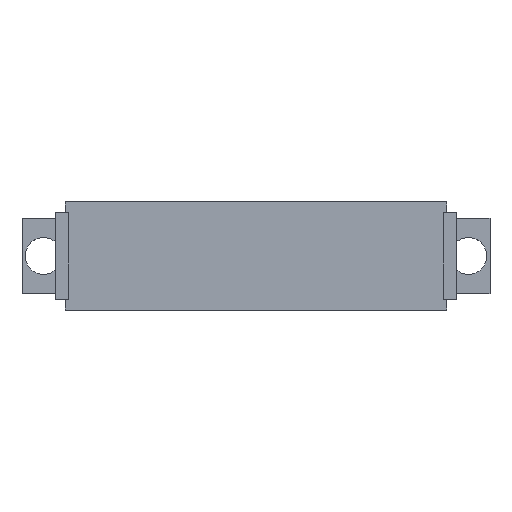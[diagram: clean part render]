
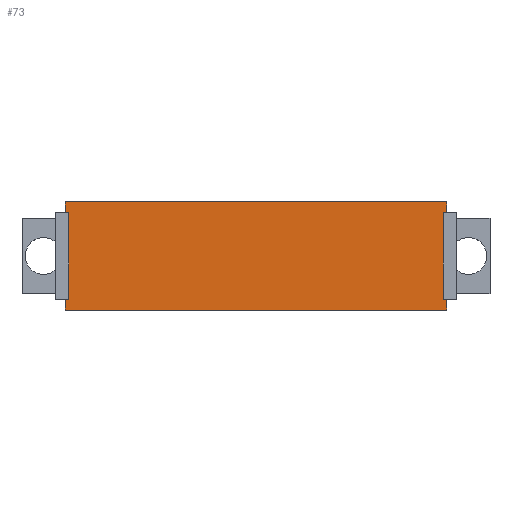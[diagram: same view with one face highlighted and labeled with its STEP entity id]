
A CAD part, top view. The second image highlights one B-rep face of the part: STEP entity #73.
In plain terms, the highlighted planar face has unit normal (0, 0, 1).
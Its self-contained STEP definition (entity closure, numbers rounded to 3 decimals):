
#21 = EDGE_CURVE('',#22,#24,#26,.T.);
#22 = VERTEX_POINT('',#23);
#23 = CARTESIAN_POINT('',(-56.3,-5.,93.75));
#24 = VERTEX_POINT('',#25);
#25 = CARTESIAN_POINT('',(-56.3,-4.,93.75));
#26 = LINE('',#27,#28);
#27 = CARTESIAN_POINT('',(-56.3,-5.,93.75));
#28 = VECTOR('',#29,1.);
#29 = DIRECTION('',(0.,1.,0.));
#73 = ADVANCED_FACE('',(#74),#163,.T.);
#74 = FACE_BOUND('',#75,.T.);
#75 = EDGE_LOOP('',(#76,#77,#85,#93,#101,#109,#117,#125,#133,#141,#149,
    #157));
#76 = ORIENTED_EDGE('',*,*,#21,.F.);
#77 = ORIENTED_EDGE('',*,*,#78,.T.);
#78 = EDGE_CURVE('',#22,#79,#81,.T.);
#79 = VERTEX_POINT('',#80);
#80 = CARTESIAN_POINT('',(-21.1,-5.,93.75));
#81 = LINE('',#82,#83);
#82 = CARTESIAN_POINT('',(-56.3,-5.,93.75));
#83 = VECTOR('',#84,1.);
#84 = DIRECTION('',(1.,0.,0.));
#85 = ORIENTED_EDGE('',*,*,#86,.T.);
#86 = EDGE_CURVE('',#79,#87,#89,.T.);
#87 = VERTEX_POINT('',#88);
#88 = CARTESIAN_POINT('',(-21.1,-4.,93.75));
#89 = LINE('',#90,#91);
#90 = CARTESIAN_POINT('',(-21.1,-5.,93.75));
#91 = VECTOR('',#92,1.);
#92 = DIRECTION('',(0.,1.,0.));
#93 = ORIENTED_EDGE('',*,*,#94,.T.);
#94 = EDGE_CURVE('',#87,#95,#97,.T.);
#95 = VERTEX_POINT('',#96);
#96 = CARTESIAN_POINT('',(-21.4,-4.,93.75));
#97 = LINE('',#98,#99);
#98 = CARTESIAN_POINT('',(-38.85,-4.,93.75));
#99 = VECTOR('',#100,1.);
#100 = DIRECTION('',(-1.,0.,0.));
#101 = ORIENTED_EDGE('',*,*,#102,.T.);
#102 = EDGE_CURVE('',#95,#103,#105,.T.);
#103 = VERTEX_POINT('',#104);
#104 = CARTESIAN_POINT('',(-21.4,4.,93.75));
#105 = LINE('',#106,#107);
#106 = CARTESIAN_POINT('',(-21.4,-4.5,93.75));
#107 = VECTOR('',#108,1.);
#108 = DIRECTION('',(0.,1.,0.));
#109 = ORIENTED_EDGE('',*,*,#110,.F.);
#110 = EDGE_CURVE('',#111,#103,#113,.T.);
#111 = VERTEX_POINT('',#112);
#112 = CARTESIAN_POINT('',(-21.1,4.,93.75));
#113 = LINE('',#114,#115);
#114 = CARTESIAN_POINT('',(-38.85,4.,93.75));
#115 = VECTOR('',#116,1.);
#116 = DIRECTION('',(-1.,0.,0.));
#117 = ORIENTED_EDGE('',*,*,#118,.T.);
#118 = EDGE_CURVE('',#111,#119,#121,.T.);
#119 = VERTEX_POINT('',#120);
#120 = CARTESIAN_POINT('',(-21.1,5.,93.75));
#121 = LINE('',#122,#123);
#122 = CARTESIAN_POINT('',(-21.1,-5.,93.75));
#123 = VECTOR('',#124,1.);
#124 = DIRECTION('',(0.,1.,0.));
#125 = ORIENTED_EDGE('',*,*,#126,.F.);
#126 = EDGE_CURVE('',#127,#119,#129,.T.);
#127 = VERTEX_POINT('',#128);
#128 = CARTESIAN_POINT('',(-56.3,5.,93.75));
#129 = LINE('',#130,#131);
#130 = CARTESIAN_POINT('',(-56.3,5.,93.75));
#131 = VECTOR('',#132,1.);
#132 = DIRECTION('',(1.,0.,0.));
#133 = ORIENTED_EDGE('',*,*,#134,.F.);
#134 = EDGE_CURVE('',#135,#127,#137,.T.);
#135 = VERTEX_POINT('',#136);
#136 = CARTESIAN_POINT('',(-56.3,4.,93.75));
#137 = LINE('',#138,#139);
#138 = CARTESIAN_POINT('',(-56.3,-5.,93.75));
#139 = VECTOR('',#140,1.);
#140 = DIRECTION('',(0.,1.,0.));
#141 = ORIENTED_EDGE('',*,*,#142,.F.);
#142 = EDGE_CURVE('',#143,#135,#145,.T.);
#143 = VERTEX_POINT('',#144);
#144 = CARTESIAN_POINT('',(-56.,4.,93.75));
#145 = LINE('',#146,#147);
#146 = CARTESIAN_POINT('',(-56.75,4.,93.75));
#147 = VECTOR('',#148,1.);
#148 = DIRECTION('',(-1.,0.,0.));
#149 = ORIENTED_EDGE('',*,*,#150,.F.);
#150 = EDGE_CURVE('',#151,#143,#153,.T.);
#151 = VERTEX_POINT('',#152);
#152 = CARTESIAN_POINT('',(-56.,-4.,93.75));
#153 = LINE('',#154,#155);
#154 = CARTESIAN_POINT('',(-56.,-4.5,93.75));
#155 = VECTOR('',#156,1.);
#156 = DIRECTION('',(0.,1.,0.));
#157 = ORIENTED_EDGE('',*,*,#158,.T.);
#158 = EDGE_CURVE('',#151,#24,#159,.T.);
#159 = LINE('',#160,#161);
#160 = CARTESIAN_POINT('',(-56.75,-4.,93.75));
#161 = VECTOR('',#162,1.);
#162 = DIRECTION('',(-1.,0.,0.));
#163 = PLANE('',#164);
#164 = AXIS2_PLACEMENT_3D('',#165,#166,#167);
#165 = CARTESIAN_POINT('',(-56.3,-5.,93.75));
#166 = DIRECTION('',(0.,0.,1.));
#167 = DIRECTION('',(1.,0.,0.));
